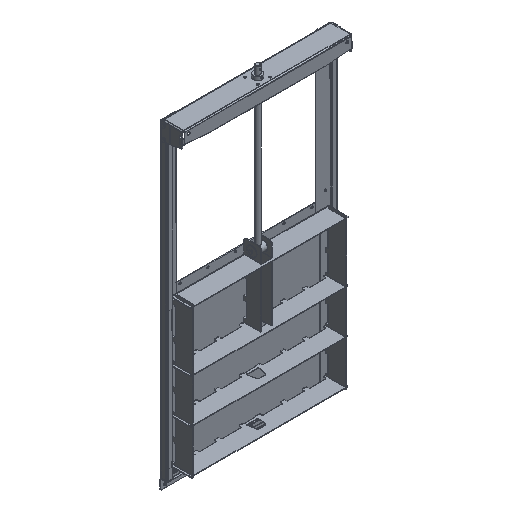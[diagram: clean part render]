
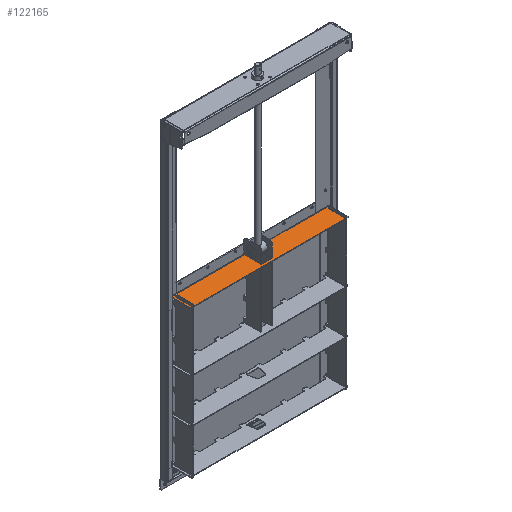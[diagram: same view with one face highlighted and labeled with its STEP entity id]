
A CAD part, isometric view. The second image highlights one B-rep face of the part: STEP entity #122165.
In plain terms, the highlighted planar face has unit normal (0, 0, 1).
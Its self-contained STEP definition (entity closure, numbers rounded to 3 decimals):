
#2117 = VECTOR ( 'NONE', #60133, 1000. ) ;
#3317 = DIRECTION ( 'NONE',  ( 0., 1., 0. ) ) ;
#3613 = ORIENTED_EDGE ( 'NONE', *, *, #70649, .T. ) ;
#4875 = VERTEX_POINT ( 'NONE', #14711 ) ;
#5518 = ORIENTED_EDGE ( 'NONE', *, *, #17048, .F. ) ;
#7102 = EDGE_CURVE ( 'NONE', #4875, #83461, #36395, .T. ) ;
#7981 = VECTOR ( 'NONE', #44924, 1000. ) ;
#8784 = VECTOR ( 'NONE', #103441, 1000. ) ;
#9332 = DIRECTION ( 'NONE',  ( 0., 1., 0. ) ) ;
#9877 = ORIENTED_EDGE ( 'NONE', *, *, #19848, .T. ) ;
#11152 = DIRECTION ( 'NONE',  ( 0., 0., -1. ) ) ;
#11379 = CARTESIAN_POINT ( 'NONE',  ( -33., -124.5, 894. ) ) ;
#11573 = VERTEX_POINT ( 'NONE', #139535 ) ;
#13643 = CARTESIAN_POINT ( 'NONE',  ( -441.5, -89., 894. ) ) ;
#13920 = EDGE_CURVE ( 'NONE', #30581, #110740, #19509, .T. ) ;
#14711 = CARTESIAN_POINT ( 'NONE',  ( -441.5, -139., 894. ) ) ;
#17048 = EDGE_CURVE ( 'NONE', #54446, #49926, #29295, .T. ) ;
#17460 = AXIS2_PLACEMENT_3D ( 'NONE', #93640, #136084, #26980 ) ;
#17654 = DIRECTION ( 'NONE',  ( 0., 1., 0. ) ) ;
#19509 = CIRCLE ( 'NONE', #24870, 4. ) ;
#19848 = EDGE_CURVE ( 'NONE', #83461, #118412, #88877, .T. ) ;
#22295 = CARTESIAN_POINT ( 'NONE',  ( -453., -135., 894. ) ) ;
#22410 = DIRECTION ( 'NONE',  ( -1., 0., 0. ) ) ;
#22669 = EDGE_CURVE ( 'NONE', #104054, #73211, #58034, .T. ) ;
#23090 = ORIENTED_EDGE ( 'NONE', *, *, #13920, .F. ) ;
#24408 = CARTESIAN_POINT ( 'NONE',  ( 453., -27., 894. ) ) ;
#24870 = AXIS2_PLACEMENT_3D ( 'NONE', #99895, #11152, #77779 ) ;
#26006 = CARTESIAN_POINT ( 'NONE',  ( 449., -139., 894. ) ) ;
#26980 = DIRECTION ( 'NONE',  ( 0., -1., 0. ) ) ;
#27005 = CARTESIAN_POINT ( 'NONE',  ( -441.5, -89., 894. ) ) ;
#29208 = EDGE_CURVE ( 'NONE', #138715, #56717, #76274, .T. ) ;
#29295 = LINE ( 'NONE', #34166, #34370 ) ;
#30097 = VECTOR ( 'NONE', #92574, 1000. ) ;
#30581 = VERTEX_POINT ( 'NONE', #127967 ) ;
#31896 = ORIENTED_EDGE ( 'NONE', *, *, #22669, .T. ) ;
#32075 = CARTESIAN_POINT ( 'NONE',  ( 436.5, -89., 894. ) ) ;
#34166 = CARTESIAN_POINT ( 'NONE',  ( 441.5, -89., 894. ) ) ;
#34370 = VECTOR ( 'NONE', #44208, 1000. ) ;
#35402 = CARTESIAN_POINT ( 'NONE',  ( -436.5, -89., 894. ) ) ;
#36395 = LINE ( 'NONE', #27005, #2117 ) ;
#38763 = ORIENTED_EDGE ( 'NONE', *, *, #29208, .F. ) ;
#39202 = DIRECTION ( 'NONE',  ( 0., 0., -1. ) ) ;
#42070 = CARTESIAN_POINT ( 'NONE',  ( 33., -124.5, 894. ) ) ;
#44208 = DIRECTION ( 'NONE',  ( 0., 1., 0. ) ) ;
#44589 = EDGE_CURVE ( 'NONE', #104054, #87799, #67168, .T. ) ;
#44924 = DIRECTION ( 'NONE',  ( -1., 0., 0. ) ) ;
#45555 = CARTESIAN_POINT ( 'NONE',  ( -449., -139., 894. ) ) ;
#47663 = DIRECTION ( 'NONE',  ( 0., -1., 0. ) ) ;
#47813 = VECTOR ( 'NONE', #3317, 1000. ) ;
#48248 = CARTESIAN_POINT ( 'NONE',  ( 436.5, -139., 894. ) ) ;
#48723 = EDGE_LOOP ( 'NONE', ( #125389, #60703, #31896, #3613, #126932, #96926, #91088, #87354, #107976, #109261, #9877, #69409, #38763, #54844, #72141, #5518, #101951, #23090 ) ) ;
#48934 = CARTESIAN_POINT ( 'NONE',  ( -33., -27., 894. ) ) ;
#49483 = CARTESIAN_POINT ( 'NONE',  ( -436.5, -139., 894. ) ) ;
#49812 = PLANE ( 'NONE',  #77212 ) ;
#49873 = VERTEX_POINT ( 'NONE', #45555 ) ;
#49926 = VERTEX_POINT ( 'NONE', #125564 ) ;
#50794 = VERTEX_POINT ( 'NONE', #32075 ) ;
#50861 = CARTESIAN_POINT ( 'NONE',  ( -436.5, -89., 894. ) ) ;
#51542 = DIRECTION ( 'NONE',  ( -1., 0., 0. ) ) ;
#51807 = DIRECTION ( 'NONE',  ( 0., -1., 0. ) ) ;
#54446 = VERTEX_POINT ( 'NONE', #104448 ) ;
#54778 = EDGE_CURVE ( 'NONE', #50794, #138715, #66017, .T. ) ;
#54844 = ORIENTED_EDGE ( 'NONE', *, *, #54778, .F. ) ;
#56717 = VERTEX_POINT ( 'NONE', #49483 ) ;
#58034 = LINE ( 'NONE', #42070, #90451 ) ;
#59276 = LINE ( 'NONE', #117564, #76247 ) ;
#59290 = LINE ( 'NONE', #80065, #30097 ) ;
#60133 = DIRECTION ( 'NONE',  ( 0., 1., 0. ) ) ;
#60627 = CARTESIAN_POINT ( 'NONE',  ( 436.5, -139., 894. ) ) ;
#60703 = ORIENTED_EDGE ( 'NONE', *, *, #44589, .F. ) ;
#60704 = VERTEX_POINT ( 'NONE', #112173 ) ;
#61268 = CARTESIAN_POINT ( 'NONE',  ( 0., -78.837, 894. ) ) ;
#62723 = VERTEX_POINT ( 'NONE', #22295 ) ;
#66017 = LINE ( 'NONE', #60627, #110695 ) ;
#67124 = LINE ( 'NONE', #128960, #129075 ) ;
#67168 = LINE ( 'NONE', #135312, #8784 ) ;
#68566 = EDGE_CURVE ( 'NONE', #60704, #95913, #130727, .T. ) ;
#68757 = CARTESIAN_POINT ( 'NONE',  ( 33., -27., 894. ) ) ;
#68765 = EDGE_CURVE ( 'NONE', #87799, #30581, #69976, .T. ) ;
#69409 = ORIENTED_EDGE ( 'NONE', *, *, #93357, .T. ) ;
#69976 = LINE ( 'NONE', #93038, #113058 ) ;
#70649 = EDGE_CURVE ( 'NONE', #73211, #60704, #89488, .T. ) ;
#71393 = EDGE_CURVE ( 'NONE', #110740, #54446, #142203, .T. ) ;
#72141 = ORIENTED_EDGE ( 'NONE', *, *, #104455, .F. ) ;
#73211 = VERTEX_POINT ( 'NONE', #115732 ) ;
#76247 = VECTOR ( 'NONE', #51807, 1000. ) ;
#76274 = LINE ( 'NONE', #119870, #121046 ) ;
#77212 = AXIS2_PLACEMENT_3D ( 'NONE', #61268, #39202, #17654 ) ;
#77779 = DIRECTION ( 'NONE',  ( 0., -1., 0. ) ) ;
#78888 = LINE ( 'NONE', #86900, #132249 ) ;
#80065 = CARTESIAN_POINT ( 'NONE',  ( 0., -27., 894. ) ) ;
#82583 = VECTOR ( 'NONE', #112193, 1000. ) ;
#83461 = VERTEX_POINT ( 'NONE', #13643 ) ;
#84635 = EDGE_CURVE ( 'NONE', #4875, #49873, #140914, .T. ) ;
#85780 = VECTOR ( 'NONE', #51542, 1000. ) ;
#86246 = DIRECTION ( 'NONE',  ( 0., -1., 0. ) ) ;
#86900 = CARTESIAN_POINT ( 'NONE',  ( 436.5, -89., 894. ) ) ;
#87354 = ORIENTED_EDGE ( 'NONE', *, *, #89166, .F. ) ;
#87799 = VERTEX_POINT ( 'NONE', #24408 ) ;
#88877 = LINE ( 'NONE', #50861, #93981 ) ;
#89166 = EDGE_CURVE ( 'NONE', #49873, #62723, #94532, .T. ) ;
#89488 = LINE ( 'NONE', #11379, #82583 ) ;
#90451 = VECTOR ( 'NONE', #117521, 1000. ) ;
#91088 = ORIENTED_EDGE ( 'NONE', *, *, #91643, .F. ) ;
#91643 = EDGE_CURVE ( 'NONE', #62723, #11573, #67124, .T. ) ;
#92574 = DIRECTION ( 'NONE',  ( 1., 0., 0. ) ) ;
#93038 = CARTESIAN_POINT ( 'NONE',  ( 453., -27., 894. ) ) ;
#93357 = EDGE_CURVE ( 'NONE', #118412, #56717, #59276, .T. ) ;
#93640 = CARTESIAN_POINT ( 'NONE',  ( -449., -135., 894. ) ) ;
#93981 = VECTOR ( 'NONE', #94043, 1000. ) ;
#94043 = DIRECTION ( 'NONE',  ( 1., 0., 0. ) ) ;
#94532 = CIRCLE ( 'NONE', #17460, 4. ) ;
#94626 = EDGE_CURVE ( 'NONE', #11573, #95913, #59290, .T. ) ;
#95616 = CARTESIAN_POINT ( 'NONE',  ( 453., -139., 894. ) ) ;
#95913 = VERTEX_POINT ( 'NONE', #98821 ) ;
#96926 = ORIENTED_EDGE ( 'NONE', *, *, #94626, .F. ) ;
#98821 = CARTESIAN_POINT ( 'NONE',  ( -33., -27., 894. ) ) ;
#99895 = CARTESIAN_POINT ( 'NONE',  ( 449., -135., 894. ) ) ;
#101951 = ORIENTED_EDGE ( 'NONE', *, *, #71393, .F. ) ;
#103441 = DIRECTION ( 'NONE',  ( 1., 0., 0. ) ) ;
#104054 = VERTEX_POINT ( 'NONE', #68757 ) ;
#104448 = CARTESIAN_POINT ( 'NONE',  ( 441.5, -139., 894. ) ) ;
#104455 = EDGE_CURVE ( 'NONE', #49926, #50794, #78888, .T. ) ;
#107976 = ORIENTED_EDGE ( 'NONE', *, *, #84635, .F. ) ;
#109261 = ORIENTED_EDGE ( 'NONE', *, *, #7102, .T. ) ;
#110695 = VECTOR ( 'NONE', #47663, 1000. ) ;
#110740 = VERTEX_POINT ( 'NONE', #26006 ) ;
#112173 = CARTESIAN_POINT ( 'NONE',  ( -33., -124.5, 894. ) ) ;
#112193 = DIRECTION ( 'NONE',  ( -1., 0., 0. ) ) ;
#113058 = VECTOR ( 'NONE', #86246, 1000. ) ;
#115732 = CARTESIAN_POINT ( 'NONE',  ( 33., -124.5, 894. ) ) ;
#117521 = DIRECTION ( 'NONE',  ( 0., -1., 0. ) ) ;
#117564 = CARTESIAN_POINT ( 'NONE',  ( -436.5, -139., 894. ) ) ;
#118412 = VERTEX_POINT ( 'NONE', #35402 ) ;
#119587 = DIRECTION ( 'NONE',  ( -1., 0., 0. ) ) ;
#119870 = CARTESIAN_POINT ( 'NONE',  ( 453., -139., 894. ) ) ;
#121046 = VECTOR ( 'NONE', #22410, 1000. ) ;
#122165 = ADVANCED_FACE ( 'NONE', ( #123582 ), #49812, .F. ) ;
#123243 = CARTESIAN_POINT ( 'NONE',  ( 453., -139., 894. ) ) ;
#123582 = FACE_OUTER_BOUND ( 'NONE', #48723, .T. ) ;
#125389 = ORIENTED_EDGE ( 'NONE', *, *, #68765, .F. ) ;
#125564 = CARTESIAN_POINT ( 'NONE',  ( 441.5, -89., 894. ) ) ;
#126932 = ORIENTED_EDGE ( 'NONE', *, *, #68566, .T. ) ;
#127967 = CARTESIAN_POINT ( 'NONE',  ( 453., -135., 894. ) ) ;
#128960 = CARTESIAN_POINT ( 'NONE',  ( -453., -27., 894. ) ) ;
#129075 = VECTOR ( 'NONE', #9332, 1000. ) ;
#130727 = LINE ( 'NONE', #48934, #47813 ) ;
#132249 = VECTOR ( 'NONE', #119587, 1000. ) ;
#135312 = CARTESIAN_POINT ( 'NONE',  ( 0., -27., 894. ) ) ;
#136084 = DIRECTION ( 'NONE',  ( 0., 0., -1. ) ) ;
#138715 = VERTEX_POINT ( 'NONE', #48248 ) ;
#139535 = CARTESIAN_POINT ( 'NONE',  ( -453., -27., 894. ) ) ;
#140914 = LINE ( 'NONE', #95616, #85780 ) ;
#142203 = LINE ( 'NONE', #123243, #7981 ) ;
